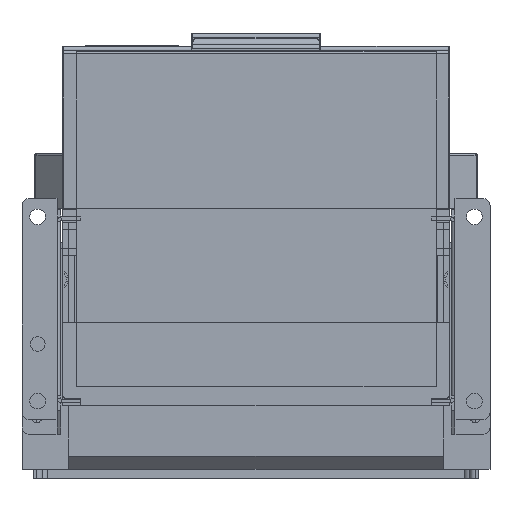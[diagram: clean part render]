
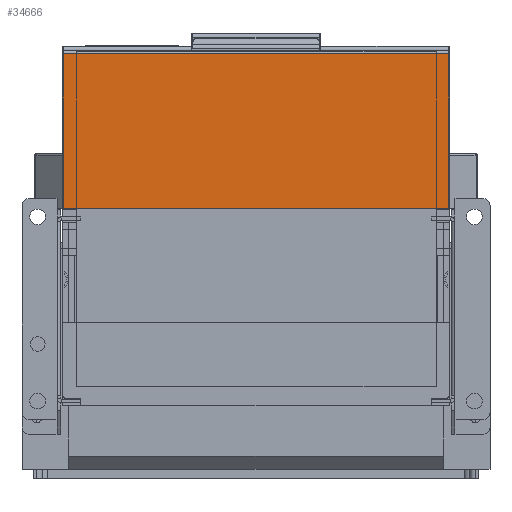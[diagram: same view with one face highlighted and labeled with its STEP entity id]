
A CAD part, front view. The second image highlights one B-rep face of the part: STEP entity #34666.
In plain terms, the highlighted planar face has unit normal (0, -1, 0).
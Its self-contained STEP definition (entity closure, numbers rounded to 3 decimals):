
#6427 = FACE_OUTER_BOUND ( 'NONE', #63772, .T. ) ;
#7391 = LINE ( 'NONE', #30769, #11132 ) ;
#11132 = VECTOR ( 'NONE', #66834, 1000. ) ;
#15937 = LINE ( 'NONE', #137759, #135597 ) ;
#19607 = ORIENTED_EDGE ( 'NONE', *, *, #89318, .T. ) ;
#24331 = ORIENTED_EDGE ( 'NONE', *, *, #112835, .T. ) ;
#28035 = DIRECTION ( 'NONE',  ( 0., 0., -1. ) ) ;
#30769 = CARTESIAN_POINT ( 'NONE',  ( 105., -132., 84. ) ) ;
#34666 = ADVANCED_FACE ( 'NONE', ( #6427 ), #78802, .F. ) ;
#41211 = DIRECTION ( 'NONE',  ( 0., 0., 1. ) ) ;
#43127 = VERTEX_POINT ( 'NONE', #102448 ) ;
#45990 = EDGE_CURVE ( 'NONE', #124658, #80193, #89369, .T. ) ;
#49435 = CARTESIAN_POINT ( 'NONE',  ( 104.5, -132., 69. ) ) ;
#49810 = EDGE_CURVE ( 'NONE', #124658, #43127, #96423, .T. ) ;
#50833 = DIRECTION ( 'NONE',  ( -1., 0., 0. ) ) ;
#55264 = CARTESIAN_POINT ( 'NONE',  ( 105., -132., 69. ) ) ;
#60045 = VERTEX_POINT ( 'NONE', #131259 ) ;
#63772 = EDGE_LOOP ( 'NONE', ( #19607, #24331, #126881, #70692 ) ) ;
#65792 = DIRECTION ( 'NONE',  ( 0., 1., 0. ) ) ;
#66834 = DIRECTION ( 'NONE',  ( -1., 0., 0. ) ) ;
#70692 = ORIENTED_EDGE ( 'NONE', *, *, #45990, .T. ) ;
#73855 = CARTESIAN_POINT ( 'NONE',  ( 105., -132., 0. ) ) ;
#78802 = PLANE ( 'NONE',  #132438 ) ;
#80193 = VERTEX_POINT ( 'NONE', #147579 ) ;
#85655 = VECTOR ( 'NONE', #142438, 1000. ) ;
#89318 = EDGE_CURVE ( 'NONE', #80193, #60045, #7391, .T. ) ;
#89369 = LINE ( 'NONE', #49435, #85655 ) ;
#95762 = CARTESIAN_POINT ( 'NONE',  ( 104.5, -132., 0. ) ) ;
#96423 = LINE ( 'NONE', #73855, #105722 ) ;
#102448 = CARTESIAN_POINT ( 'NONE',  ( -104.5, -132., 0. ) ) ;
#105722 = VECTOR ( 'NONE', #50833, 1000. ) ;
#112835 = EDGE_CURVE ( 'NONE', #60045, #43127, #15937, .T. ) ;
#124658 = VERTEX_POINT ( 'NONE', #95762 ) ;
#126881 = ORIENTED_EDGE ( 'NONE', *, *, #49810, .F. ) ;
#131259 = CARTESIAN_POINT ( 'NONE',  ( -104.5, -132., 84. ) ) ;
#132438 = AXIS2_PLACEMENT_3D ( 'NONE', #55264, #65792, #41211 ) ;
#135597 = VECTOR ( 'NONE', #28035, 1000. ) ;
#137759 = CARTESIAN_POINT ( 'NONE',  ( -104.5, -132., 69. ) ) ;
#142438 = DIRECTION ( 'NONE',  ( 0., 0., 1. ) ) ;
#147579 = CARTESIAN_POINT ( 'NONE',  ( 104.5, -132., 84. ) ) ;
